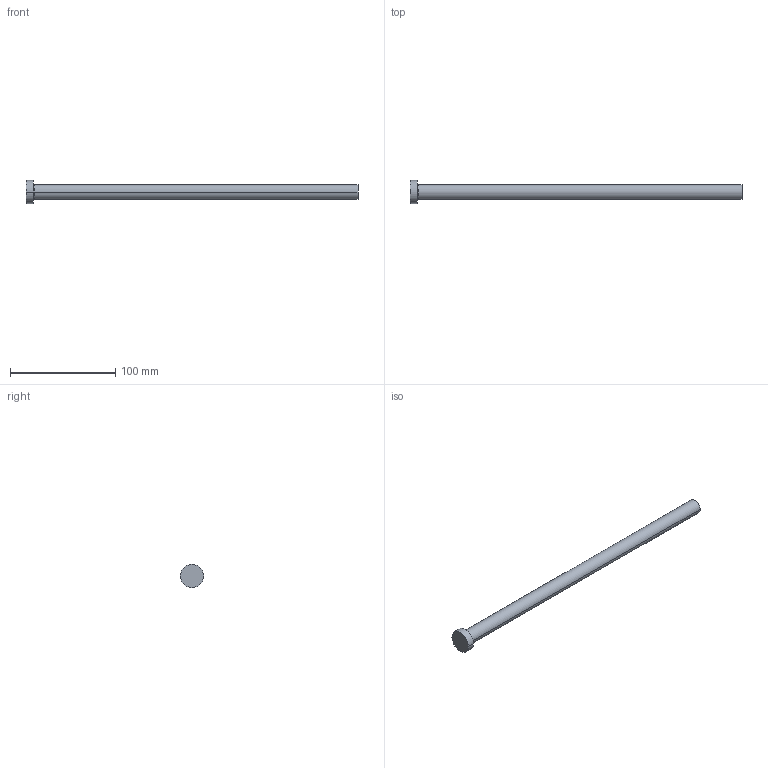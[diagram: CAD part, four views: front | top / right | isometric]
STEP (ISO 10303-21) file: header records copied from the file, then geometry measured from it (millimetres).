
FILE_DESCRIPTION (( 'STEP AP214' ), '1' );
FILE_NAME ('A-14x315.STEP', '2020-05-29T16:16:45', ( 'August' ), ( '' ), 'SwSTEP 2.0', 'SolidWorks 2018', '' );
FILE_SCHEMA (( 'AUTOMOTIVE_DESIGN' ));
Length unit declared in the file: millimetre
Products named in the file (1): A-14x315
Bounding box: 315 x 22 x 22 mm (x, y, z)
Volume: 50080 mm3; surface area: 14775.8 mm2
Topology: 1 solids, 1 shells, 9 faces, 16 edges, 10 vertices
Faces by surface type: cylinder 4, plane 3, torus 2
Entity records: 260 total; most frequent: DIRECTION 48, CARTESIAN_POINT 36, ORIENTED_EDGE 32, AXIS2_PLACEMENT_3D 22, EDGE_CURVE 16, CIRCLE 12, VERTEX_POINT 10, EDGE_LOOP 10
